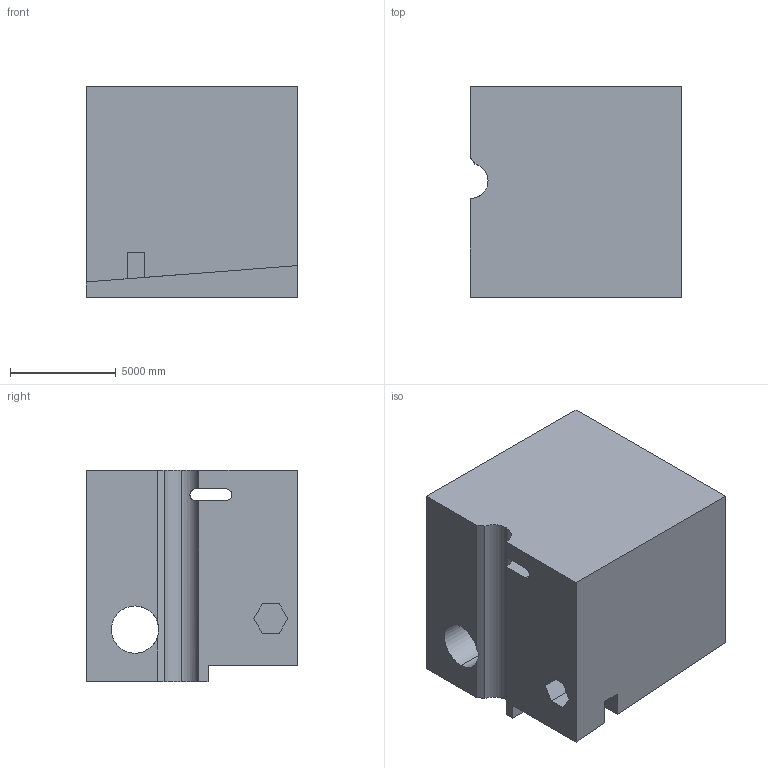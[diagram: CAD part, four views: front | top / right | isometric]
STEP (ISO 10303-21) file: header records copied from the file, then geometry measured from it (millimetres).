
FILE_DESCRIPTION (( 'STEP AP203' ), '1' );
FILE_NAME ('88.STEP', '2022-09-01T14:27:05', ( 'user' ), ( '' ), 'SwSTEP 2.0', 'SolidWorks 2021', '' );
FILE_SCHEMA (( 'CONFIG_CONTROL_DESIGN' ));
Length unit declared in the file: centimetre
Products named in the file (1): 88
Bounding box: 10000 x 10000 x 10000 mm (x, y, z)
Volume: 870007003387.3 mm3; surface area: 774641648.7 mm2
Topology: 1 solids, 1 shells, 37 faces, 102 edges, 68 vertices
Faces by surface type: plane 31, cylinder 6
Entity records: 1362 total; most frequent: CARTESIAN_POINT 320, ORIENTED_EDGE 204, DIRECTION 190, EDGE_CURVE 102, VECTOR 86, LINE 86, VERTEX_POINT 68, AXIS2_PLACEMENT_3D 52
